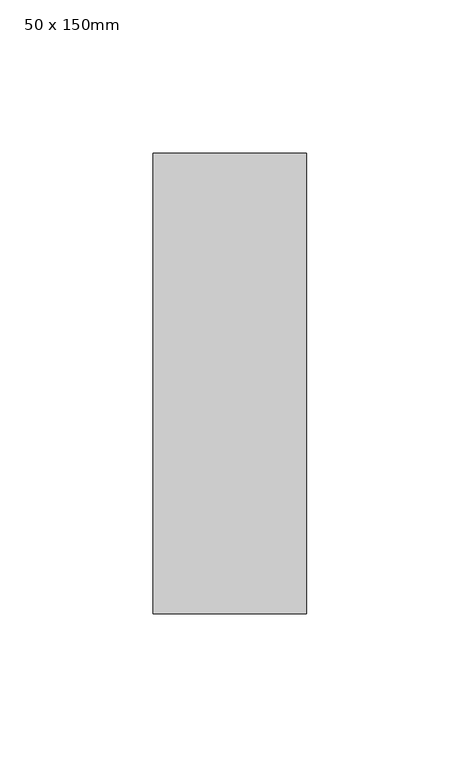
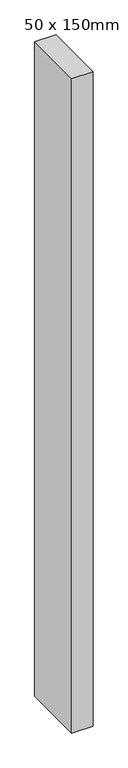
"""IFC4 building model written with IfcOpenShell, lengths in millimetres: member geometry, 矩形竖梃 : 50 x 150mm."""

import ifcopenshell
import ifcopenshell.guid

model = None  # the IFC model being written
_history = None  # IfcOwnerHistory: only IFC2X3 demands one
_inside = {}  # id of a spatial element -> (the spatial element, [elements in it])
_under = {}  # id of a project, library or spatial element -> (it, [spatial elements below it])
_declared = {}  # id of a project -> (the project, [libraries it declares])
_typed = {}  # id of a type object -> (the type object, [elements of that type])
_made_of = {}  # id of a material, layer set ... -> (it, [elements and type objects made of it])


def new_model(schema):
    """Start an empty IFC model of exactly this schema.

    Asked for "IFC4X3", IfcOpenShell would pick the latest addendum, in which some entities
    have other attributes; the version numbers below select the first issue.
    IFC2X3 requires an IfcOwnerHistory on every rooted entity: one is made here for all.
    """
    global model, _history
    if schema == "IFC4X3":
        model = ifcopenshell.file(schema_version=(4, 3, 0, 0))
    else:
        model = ifcopenshell.file(schema=schema)
    _inside.clear()
    _under.clear()
    _declared.clear()
    _typed.clear()
    _made_of.clear()
    _history = None
    if model.schema == "IFC2X3":
        org = make("IfcOrganization", Name="unknown")
        user = make(
            "IfcPersonAndOrganization",
            ThePerson=make("IfcPerson", FamilyName="unknown"),
            TheOrganization=org,
        )
        app = make(
            "IfcApplication",
            ApplicationDeveloper=org,
            Version="unknown",
            ApplicationFullName="unknown",
            ApplicationIdentifier="unknown",
        )
        _history = make(
            "IfcOwnerHistory",
            OwningUser=user,
            OwningApplication=app,
            ChangeAction="ADDED",
            CreationDate=0,
        )
    return model


def make(cls, **values):
    """One entity of the class cls with the attributes given. An attribute that is None is left unset."""
    return model.create_entity(
        cls, **{name: value for name, value in values.items() if value is not None}
    )


def rooted(cls, **values):
    """An entity with a GlobalId (a new one), such as an element, a storey or a relation."""
    return make(cls, GlobalId=ifcopenshell.guid.new(), OwnerHistory=_history, **values)


def si_unit(unit_type, name, prefix=None):
    """IfcSIUnit, for example si_unit("LENGTHUNIT", "METRE", prefix="MILLI")."""
    return make("IfcSIUnit", UnitType=unit_type, Prefix=prefix, Name=name)


def assignment(units):
    """IfcUnitAssignment: the units of a project."""
    return None if units is None else make("IfcUnitAssignment", Units=units)


def point(xyz):
    """IfcCartesianPoint."""
    return None if xyz is None else make("IfcCartesianPoint", Coordinates=xyz)


def direction(xyz):
    """IfcDirection."""
    return None if xyz is None else make("IfcDirection", DirectionRatios=xyz)


def frame(location, z_axis=None, x_axis=None):
    """IfcAxis2Placement3D, a coordinate frame: its origin and axes. An axis left out is left unset."""
    return make(
        "IfcAxis2Placement3D",
        Location=point(location),
        Axis=direction(z_axis),
        RefDirection=direction(x_axis),
    )


def origin():
    """The frame at (0, 0, 0) with its axes left unset."""
    return frame((0.0, 0.0, 0.0))


def place(relative_to, where):
    """IfcLocalPlacement: puts the frame where relative to a parent placement (None: the world)."""
    return make(
        "IfcLocalPlacement", PlacementRelTo=relative_to, RelativePlacement=where
    )


def context(
    kind, dimensions, precision=None, world=None, true_north=None, identifier=None
):
    """IfcGeometricRepresentationContext, for example the 3D "Model" context."""
    return make(
        "IfcGeometricRepresentationContext",
        ContextIdentifier=identifier,
        ContextType=kind,
        CoordinateSpaceDimension=dimensions,
        Precision=precision,
        WorldCoordinateSystem=world,
        TrueNorth=true_north,
    )


def project(units=None, contexts=None):
    """IfcProject with its units and contexts."""
    return rooted(
        "IfcProject",
        Name="project",
        RepresentationContexts=contexts,
        UnitsInContext=assignment(units),
    )


def spatial(cls, under=None, at=None, **own):
    """A site, building, storey or space (cls), placed at a placement, below another one or the project."""
    s = rooted(cls, ObjectPlacement=at, **own)
    if under is not None:
        _under.setdefault(under.id(), (under, []))[1].append(s)
    return s


def polyline(points):
    """IfcPolyline through the points."""
    return make("IfcPolyline", Points=[point(p) for p in points])


def outline(outer, holes=None, kind="AREA"):
    """IfcArbitraryClosedProfileDef: a profile drawn as a closed curve; with holes, ...WithVoids."""
    if holes is None:
        return make("IfcArbitraryClosedProfileDef", ProfileType=kind, OuterCurve=outer)
    return make(
        "IfcArbitraryProfileDefWithVoids",
        ProfileType=kind,
        OuterCurve=outer,
        InnerCurves=holes,
    )


def extrude(swept, where, along, depth):
    """IfcExtrudedAreaSolid: the profile swept, set in the frame where, extruded along a direction by depth."""
    return make(
        "IfcExtrudedAreaSolid",
        SweptArea=swept,
        Position=where,
        ExtrudedDirection=direction(along),
        Depth=depth,
    )


def shape(context_of_items, identifier, shape_type, items):
    """IfcShapeRepresentation: the items that make up one representation, for example the "Body"."""
    return make(
        "IfcShapeRepresentation",
        ContextOfItems=context_of_items,
        RepresentationIdentifier=identifier,
        RepresentationType=shape_type,
        Items=items,
    )


def source(mapping_origin, context_of_items, identifier, shape_type, items):
    """IfcRepresentationMap: a shape defined once, which mapped items show again and again."""
    return make(
        "IfcRepresentationMap",
        MappingOrigin=mapping_origin,
        MappedRepresentation=shape(context_of_items, identifier, shape_type, items),
    )


def transform(
    local_origin,
    x_axis=None,
    y_axis=None,
    z_axis=None,
    scale=None,
    scale2=None,
    scale3=None,
    uniform=True,
):
    """IfcCartesianTransformationOperator3D, or its non-uniform kind. x_axis, y_axis, z_axis: its Axis1, 2, 3."""
    if uniform:
        return make(
            "IfcCartesianTransformationOperator3D",
            Axis1=direction(x_axis),
            Axis2=direction(y_axis),
            LocalOrigin=point(local_origin),
            Scale=scale,
            Axis3=direction(z_axis),
        )
    return make(
        "IfcCartesianTransformationOperator3DnonUniform",
        Axis1=direction(x_axis),
        Axis2=direction(y_axis),
        LocalOrigin=point(local_origin),
        Scale=scale,
        Axis3=direction(z_axis),
        Scale2=scale2,
        Scale3=scale3,
    )


def mapped(mapping_source, mapping_target):
    """IfcMappedItem: shows the shape of a source again, moved by a transform."""
    return make(
        "IfcMappedItem", MappingSource=mapping_source, MappingTarget=mapping_target
    )


def made_of(thing, what):
    """Note that an element or type object is made of a material, layer set ...; save() writes the relation."""
    if what is not None:
        _made_of.setdefault(what.id(), (what, []))[1].append(thing)
    return thing


def element(
    cls,
    number,
    at=None,
    inside=None,
    cuts=None,
    type_object=None,
    material=None,
    context=None,
    identifier="Body",
    shape_type=None,
    held_by="IfcProductDefinitionShape",
    body=None,
    shapes=None,
    **own,
):
    """One element of the class cls, such as IfcWall. Its Tag is "e" and its number.

    at: its placement. inside: the storey or other place that contains it. cuts: it is an
    opening in that element (IfcRelVoidsElement). A single representation is given by context,
    identifier, shape_type and body (its items); several are given by shapes. held_by: the class
    of the entity that holds the representations. save() writes the other relations.
    """
    e = rooted(cls, Tag="e%d" % number, ObjectPlacement=at, **own)
    if body is not None:
        shapes = [shape(context, identifier, shape_type, body)]
    if shapes is not None:
        e.Representation = make(held_by, Representations=shapes)
    if inside is not None:
        _inside.setdefault(inside.id(), (inside, []))[1].append(e)
    if cuts is not None:
        rooted(
            "IfcRelVoidsElement", RelatingBuildingElement=cuts, RelatedOpeningElement=e
        )
    if type_object is not None:
        _typed.setdefault(type_object.id(), (type_object, []))[1].append(e)
    return made_of(e, material)


def aggregate(whole, parts):
    """IfcRelAggregates: a whole, such as a stair, and the parts it consists of."""
    return rooted("IfcRelAggregates", RelatingObject=whole, RelatedObjects=parts)


def save(model, path):
    """Write the relations noted so far, then the file.

    IfcRelAggregates (storeys below a building ...), IfcRelContainedInSpatialStructure (elements
    in a storey), IfcRelDefinesByType, IfcRelAssociatesMaterial and IfcRelDeclares: one each for
    every whole, place, type object, material and project.
    """
    for whole, parts in _under.values():
        aggregate(whole, parts)
    for where, things in _inside.values():
        rooted(
            "IfcRelContainedInSpatialStructure",
            RelatedElements=things,
            RelatingStructure=where,
        )
    for kind, things in _typed.values():
        rooted("IfcRelDefinesByType", RelatedObjects=things, RelatingType=kind)
    for what, things in _made_of.values():
        rooted("IfcRelAssociatesMaterial", RelatedObjects=things, RelatingMaterial=what)
    for by, libraries in _declared.values():
        rooted("IfcRelDeclares", RelatingContext=by, RelatedDefinitions=libraries)
    model.write(path)


def member_50_x_150mm_f0202a9a(model_context):
    return source(origin(), model_context, "Body", "SweptSolid", [
        extrude(outline(polyline([(25.0, 75.0), (25.0, -75.0), (-25.0, -75.0), (-25.0, 75.0), (25.0, 75.0)])), frame((0.0, 0.0, -1616.6666667), z_axis=(0.0, 0.0, 1.0), x_axis=(1.0, 0.0, 0.0)), (0.0, 0.0, 1.0), 1616.6666667),
    ])


if __name__ == "__main__":
    model = new_model("IFC4")
    model_context = context("Model", 3, world=origin())
    ifc_project = project(units=[si_unit("LENGTHUNIT", "METRE", prefix="MILLI")], contexts=[model_context])
    site = spatial("IfcSite", under=ifc_project)
    building = spatial("IfcBuilding", under=site)
    placement = place(None, origin())
    member_50_x_150mm_shape = member_50_x_150mm_f0202a9a(model_context)
    element("IfcMember", 1, ObjectType="矩形竖梃 : 50 x 150mm", at=placement, inside=building, context=model_context, shape_type="MappedRepresentation", body=[
        mapped(member_50_x_150mm_shape, transform((0.0, 0.0, 0.0), x_axis=(1.0, 0.0, 0.0), y_axis=(0.0, 1.0, 0.0), z_axis=(0.0, 0.0, 1.0))),
    ])
    save(model, "model.ifc")
